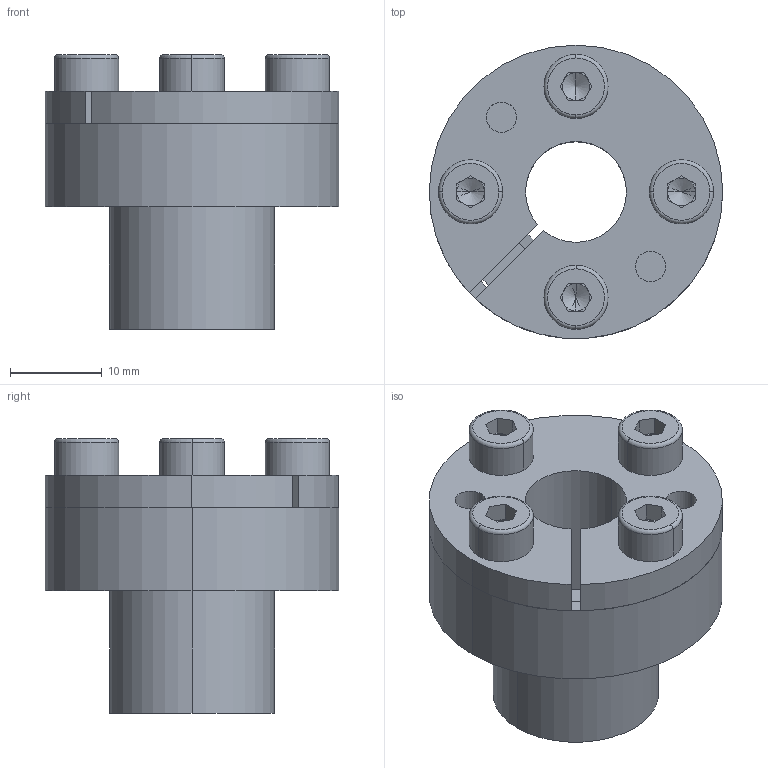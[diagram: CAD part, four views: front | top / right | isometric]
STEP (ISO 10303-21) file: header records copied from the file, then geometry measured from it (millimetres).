
FILE_DESCRIPTION (( 'STEP AP214' ), '1' );
FILE_NAME ('CONEX-B-11x18.step', '2013-04-04T12:41:05', ( 'Pc' ), ( '' ), 'SwSTEP 2.0', 'SolidWorks 2013', '' );
FILE_SCHEMA (( 'AUTOMOTIVE_DESIGN' ));
Length unit declared in the file: millimetre
Products named in the file (1): CONEX-B-11x18
Bounding box: 32 x 32 x 29.98 mm (x, y, z)
Volume: 9856.3 mm3; surface area: 10312 mm2
Topology: 7 solids, 7 shells, 174 faces, 414 edges, 250 vertices
Faces by surface type: plane 72, cylinder 52, torus 24, cone 22, bspline 4
Entity records: 7118 total; most frequent: CARTESIAN_POINT 965, DIRECTION 942, ORIENTED_EDGE 812, EDGE_CURVE 406, AXIS2_PLACEMENT_3D 379, VERTEX_POINT 250, CIRCLE 208, EDGE_LOOP 200
